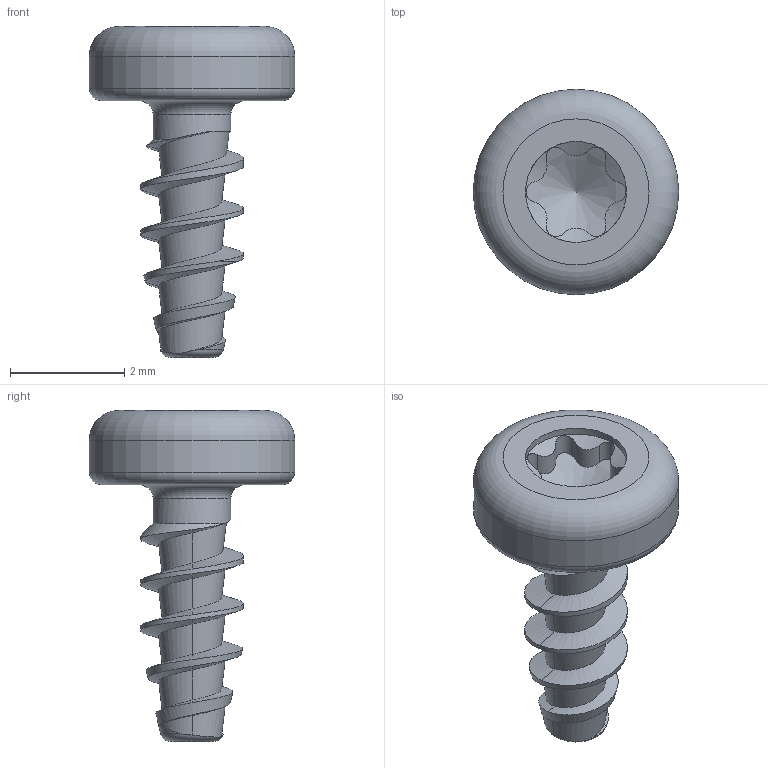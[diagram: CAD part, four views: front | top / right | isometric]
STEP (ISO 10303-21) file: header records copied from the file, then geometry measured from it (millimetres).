
FILE_DESCRIPTION(/* description */ (''),/* implementation_level */ '2;1');
FILE_NAME(/* name */ 'KN1039-STS-18x4.5-T6.step',/* time_stamp */ '2017-10-12T16:08:50+02:00',/* author */ (''),/* organization */ (''),/* preprocessor_version */ 'ST-DEVELOPER v16',/* originating_system */ 'SIEMENS PLM Software NX 10.0',/* authorisation */ '');
FILE_SCHEMA (('AUTOMOTIVE_DESIGN { 1 0 10303 214 3 1 1 1 }'));
Length unit declared in the file: millimetre
Products named in the file (1): KN1039-STS-18x4.5-T6
Bounding box: 3.6 x 3.6 x 5.8 mm (x, y, z)
Volume: 16.9 mm3; surface area: 59.7 mm2
Topology: 1 solids, 1 shells, 45 faces, 114 edges, 72 vertices
Faces by surface type: bspline 17, cylinder 16, cone 4, torus 4, plane 4
Full cylindrical faces by diameter (mm): 1.36 x1, 1.77 x1, 3.6 x1
Entity records: 2727 total; most frequent: CARTESIAN_POINT 1853, ORIENTED_EDGE 198, DIRECTION 112, EDGE_CURVE 99, VERTEX_POINT 67, B_SPLINE_CURVE_WITH_KNOTS 59, EDGE_LOOP 55, ADVANCED_FACE 45
